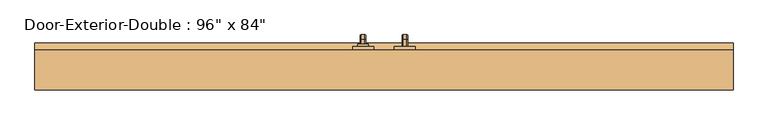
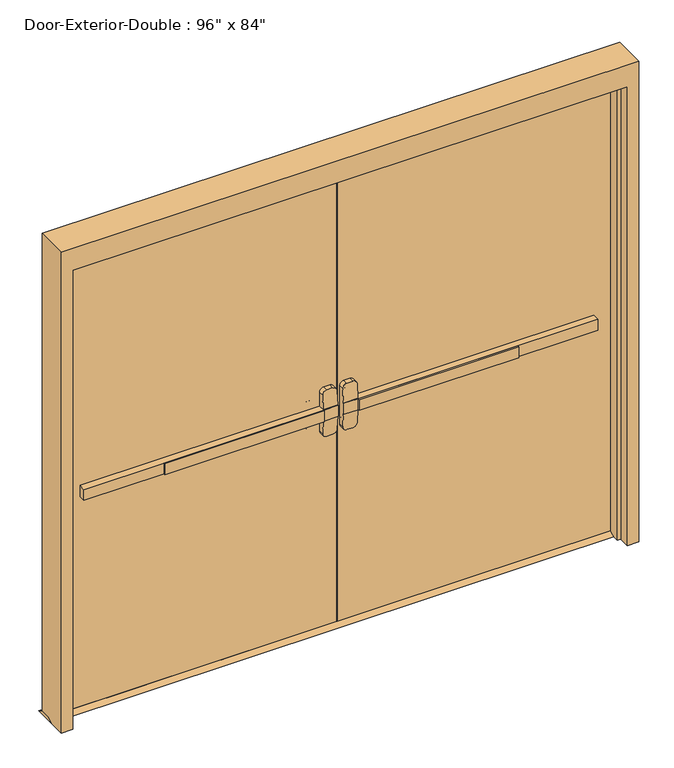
"""IFC4 building model written with IfcOpenShell, lengths in millimetres: door geometry."""

from ifc_helpers import new_model, si_unit, point, frame, frame_2d, origin, place, context, project, spatial, polyline, circle_curve, ellipse_curve, trimmed, segment, composite_curve, outline, extrude, faceted_brep, source, transform, mapped, element, save
from ifc_brep_helpers import plane_surface, cylinder_surface, revolved_surface, advanced_brep


def door_d5635643(model_context):
    return source(origin(), model_context, "Body", "SolidModel", [
        extrude(outline(polyline([(-778.9333333, 74.6125), (-778.9333333, 80.9625), (-76.2, 80.9625), (-76.2, 74.6125), (-778.9333333, 74.6125)])), frame((0.0, 0.0, 990.6), z_axis=(0.0, 0.0, 1.0), x_axis=(1.0, 0.0, 0.0)), (0.0, 0.0, 1.0), 50.8),
        advanced_brep(
        [(-12.7, 80.9625, 1041.4), (-76.2, 80.9625, 1041.4), (-1130.3, 80.9625, 1041.4), (-1130.3, 80.9625, 990.6), (-76.2, 80.9625, 990.6), (-12.7, 80.9625, 990.6), (-1130.3, 112.7125, 1041.4), (-76.2, 112.7125, 1041.4), (-76.2, 112.7125, 1104.9), (-57.15, 112.7125, 1123.95), (-31.75, 112.7125, 1123.95), (-12.7, 112.7125, 1104.9), (-12.7, 112.7125, 927.1), (-31.75, 112.7125, 908.05), (-57.15, 112.7125, 908.05), (-76.2, 112.7125, 927.1), (-76.2, 112.7125, 990.6), (-1130.3, 112.7125, 990.6), (-12.7, 84.1377467, 1041.4), (-76.2, 84.1377467, 1041.4), (-12.7, 84.1377467, 990.6), (-12.7, 89.1479269, 927.1), (-12.7, 89.1479269, 1104.9), (-76.2, 84.1377467, 990.6), (-76.2, 89.1479269, 1104.9), (-76.2, 89.1479269, 927.1), (-57.15, 90.650981, 1123.95), (-31.75, 90.650981, 1123.95), (-31.75, 90.650981, 908.05), (-57.15, 90.650981, 908.05)],
        [
            (0, 1),
            (1, 2),
            (2, 3),
            (3, 4),
            (4, 5),
            (5, 0),
            (6, 7),
            (7, 8),
            (8, 9, circle_curve(frame((-57.15, 112.7125, 1104.9), z_axis=(0.0, 1.0, 0.0), x_axis=(-1.0, 0.0, 0.0)), 19.05)),
            (9, 10),
            (10, 11, circle_curve(frame((-31.75, 112.7125, 1104.9), z_axis=(0.0, 1.0, 0.0), x_axis=(-1.0, 0.0, 0.0)), 19.05)),
            (11, 12),
            (12, 13, circle_curve(frame((-31.75, 112.7125, 927.1), z_axis=(0.0, 1.0, 0.0), x_axis=(-1.0, 0.0, 0.0)), 19.05)),
            (13, 14),
            (14, 15, circle_curve(frame((-57.15, 112.7125, 927.1), z_axis=(0.0, 1.0, 0.0), x_axis=(-1.0, 0.0, 0.0)), 19.05)),
            (15, 16),
            (16, 17),
            (17, 6),
            (0, 18),
            (18, 19),
            (19, 7),
            (6, 2),
            (5, 20),
            (20, 21),
            (21, 12),
            (11, 22),
            (22, 18),
            (16, 23),
            (23, 20),
            (3, 17),
            (19, 24),
            (24, 8),
            (15, 25),
            (25, 23),
            (9, 26),
            (26, 27),
            (27, 10),
            (13, 28),
            (28, 29),
            (29, 14),
            (29, 25, ellipse_curve(frame((-57.15, 89.1479269, 927.1), z_axis=(0.0, 0.9969018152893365, 0.07865602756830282), x_axis=(0.0, -0.07865602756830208, 0.9969018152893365)), 19.1092038, 19.05)),
            (24, 26, ellipse_curve(frame((-57.15, 89.1479269, 1104.9), z_axis=(0.0, 0.9969018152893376, -0.07865602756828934), x_axis=(0.0, -0.078656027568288, -0.9969018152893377)), 19.1092038, 19.05)),
            (27, 22, ellipse_curve(frame((-31.75, 89.1479269, 1104.9), z_axis=(0.0, 0.9969018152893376, -0.07865602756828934), x_axis=(0.0, -0.078656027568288, -0.9969018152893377)), 19.1092038, 19.05)),
            (21, 28, ellipse_curve(frame((-31.75, 89.1479269, 927.1), z_axis=(0.0, 0.9969018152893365, 0.07865602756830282), x_axis=(0.0, -0.07865602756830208, 0.9969018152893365)), 19.1092038, 19.05)),
        ],
        [
            plane_surface(frame((-12.7, 80.9625, 1041.4), z_axis=(0.0, -1.0, 0.0), x_axis=(1.0, 0.0, 0.0))),
            plane_surface(frame((-12.7, 112.7125, 1041.4), z_axis=(0.0, 1.0, 0.0), x_axis=(-1.0, 0.0, 0.0))),
            plane_surface(frame((-1130.3, 80.9625, 1041.4), z_axis=(0.0, 0.0, 1.0), x_axis=(0.0, 1.0, 0.0))),
            plane_surface(frame((-12.7, 80.9625, 1041.4), z_axis=(1.0, 0.0, 0.0), x_axis=(0.0, 1.0, 0.0))),
            plane_surface(frame((-12.7, 80.9625, 990.6), z_axis=(0.0, 0.0, -1.0), x_axis=(0.0, 1.0, 0.0))),
            plane_surface(frame((-1130.3, 80.9625, 990.6), z_axis=(-1.0, 0.0, 0.0), x_axis=(0.0, 1.0, 0.0))),
            plane_surface(frame((-76.2, 84.1377467, 927.1), z_axis=(-1.0, 0.0, 0.0), x_axis=(0.0, 1.0, 0.0))),
            plane_surface(frame((-57.15, 84.1377467, 1123.95), z_axis=(0.0, 0.0, 1.0), x_axis=(0.0, 1.0, 0.0))),
            plane_surface(frame((-31.75, 84.1377467, 908.05), z_axis=(0.0, 0.0, -1.0), x_axis=(0.0, 1.0, 0.0))),
            cylinder_surface(frame((-57.15, 112.7125, 927.1), z_axis=(0.0, -1.0, 0.0), x_axis=(-1.0, 0.0, 0.0)), 19.05),
            cylinder_surface(frame((-57.15, 112.7125, 1104.9), z_axis=(0.0, -1.0, 0.0), x_axis=(-1.0, 0.0, 0.0)), 19.05),
            cylinder_surface(frame((-31.75, 112.7125, 1104.9), z_axis=(0.0, -1.0, 0.0), x_axis=(-1.0, 0.0, 0.0)), 19.05),
            cylinder_surface(frame((-31.75, 112.7125, 927.1), z_axis=(0.0, -1.0, 0.0), x_axis=(-1.0, 0.0, 0.0)), 19.05),
            plane_surface(frame((-76.2, 84.1377467, 1041.4), z_axis=(0.0, -0.9969018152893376, 0.07865602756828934), x_axis=(1.0, 0.0, 0.0))),
            plane_surface(frame((-76.2, 90.650981, 908.05), z_axis=(0.0, -0.9969018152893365, -0.07865602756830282), x_axis=(1.0, 0.0, 0.0))),
        ],
        [
            (0, [[1, 2, 3, 4, 5, 6]]),
            (1, [[7, 8, 9, 10, 11, 12, 13, 14, 15, 16, 17, 18]]),
            (2, [[-2, -1, 19, 20, 21, -7, 22]]),
            (3, [[23, 24, 25, -12, 26, 27, -19, -6]]),
            (4, [[-17, 28, 29, -23, -5, -4, 30]]),
            (5, [[-22, -18, -30, -3]]),
            (6, [[-21, 31, 32, -8]]),
            (6, [[33, 34, -28, -16]]),
            (7, [[35, 36, 37, -10]]),
            (8, [[38, 39, 40, -14]]),
            (9, [[-40, 41, -33, -15]]),
            (10, [[-32, 42, -35, -9]]),
            (11, [[-37, 43, -26, -11]]),
            (12, [[-25, 44, -38, -13]]),
            (13, [[-27, -43, -36, -42, -31, -20]]),
            (14, [[-29, -34, -41, -39, -44, -24]]),
        ],
    ),
        extrude(outline(polyline([(157.1625, 12.7), (182.5625, 0.0), (87.3125, 0.0), (112.7125, 12.7), (157.1625, 12.7)])), frame((-1270.0, 0.0, 0.0), z_axis=(1.0, 0.0, 0.0), x_axis=(0.0, 1.0, 0.0)), (0.0, 0.0, 1.0), 2540.0),
        extrude(outline(polyline([(778.9333333, 74.6125), (76.2, 74.6125), (76.2, 80.9625), (778.9333333, 80.9625), (778.9333333, 74.6125)])), frame((0.0, 0.0, 990.6), z_axis=(0.0, 0.0, 1.0), x_axis=(1.0, 0.0, 0.0)), (0.0, 0.0, 1.0), 50.8),
        advanced_brep(
        [(12.7, 80.9625, 1041.4), (12.7, 80.9625, 990.6), (76.2, 80.9625, 990.6), (1130.3, 80.9625, 990.6), (1130.3, 80.9625, 1041.4), (76.2, 80.9625, 1041.4), (1130.3, 112.7125, 1041.4), (1130.3, 112.7125, 990.6), (76.2, 112.7125, 990.6), (76.2, 112.7125, 927.1), (57.15, 112.7125, 908.05), (31.75, 112.7125, 908.05), (12.7, 112.7125, 927.1), (12.7, 112.7125, 1104.9), (31.75, 112.7125, 1123.95), (57.15, 112.7125, 1123.95), (76.2, 112.7125, 1104.9), (76.2, 112.7125, 1041.4), (76.2, 84.1377467, 1041.4), (12.7, 84.1377467, 1041.4), (12.7, 89.1479269, 1104.9), (12.7, 89.1479269, 927.1), (12.7, 84.1377467, 990.6), (76.2, 84.1377467, 990.6), (76.2, 89.1479269, 927.1), (76.2, 89.1479269, 1104.9), (31.75, 90.650981, 1123.95), (57.15, 90.650981, 1123.95), (57.15, 90.650981, 908.05), (31.75, 90.650981, 908.05)],
        [
            (0, 1),
            (1, 2),
            (2, 3),
            (3, 4),
            (4, 5),
            (5, 0),
            (6, 7),
            (7, 8),
            (8, 9),
            (9, 10, circle_curve(frame((57.15, 112.7125, 927.1), z_axis=(0.0, 1.0, 0.0), x_axis=(1.0, 0.0, 0.0)), 19.05)),
            (10, 11),
            (11, 12, circle_curve(frame((31.75, 112.7125, 927.1), z_axis=(0.0, 1.0, 0.0), x_axis=(1.0, 0.0, 0.0)), 19.05)),
            (12, 13),
            (13, 14, circle_curve(frame((31.75, 112.7125, 1104.9), z_axis=(0.0, 1.0, 0.0), x_axis=(1.0, 0.0, 0.0)), 19.05)),
            (14, 15),
            (15, 16, circle_curve(frame((57.15, 112.7125, 1104.9), z_axis=(0.0, 1.0, 0.0), x_axis=(1.0, 0.0, 0.0)), 19.05)),
            (16, 17),
            (17, 6),
            (4, 6),
            (17, 18),
            (18, 19),
            (19, 0),
            (19, 20),
            (20, 13),
            (12, 21),
            (21, 22),
            (22, 1),
            (7, 3),
            (22, 23),
            (23, 8),
            (23, 24),
            (24, 9),
            (16, 25),
            (25, 18),
            (14, 26),
            (26, 27),
            (27, 15),
            (10, 28),
            (28, 29),
            (29, 11),
            (24, 28, ellipse_curve(frame((57.15, 89.1479269, 927.1), z_axis=(0.0, 0.9969018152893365, 0.07865602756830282), x_axis=(0.0, -0.07865602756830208, 0.9969018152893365)), 19.1092038, 19.05)),
            (27, 25, ellipse_curve(frame((57.15, 89.1479269, 1104.9), z_axis=(0.0, 0.9969018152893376, -0.07865602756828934), x_axis=(0.0, -0.078656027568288, -0.9969018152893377)), 19.1092038, 19.05)),
            (20, 26, ellipse_curve(frame((31.75, 89.1479269, 1104.9), z_axis=(0.0, 0.9969018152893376, -0.07865602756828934), x_axis=(0.0, -0.078656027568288, -0.9969018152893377)), 19.1092038, 19.05)),
            (29, 21, ellipse_curve(frame((31.75, 89.1479269, 927.1), z_axis=(0.0, 0.9969018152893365, 0.07865602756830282), x_axis=(0.0, -0.07865602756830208, 0.9969018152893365)), 19.1092038, 19.05)),
        ],
        [
            plane_surface(frame((12.7, 80.9625, 1041.4), z_axis=(0.0, -1.0, 0.0), x_axis=(-1.0, 0.0, 0.0))),
            plane_surface(frame((12.7, 112.7125, 1041.4), z_axis=(0.0, 1.0, 0.0), x_axis=(1.0, 0.0, 0.0))),
            plane_surface(frame((1130.3, 80.9625, 1041.4), z_axis=(0.0, 0.0, 1.0), x_axis=(0.0, 1.0, 0.0))),
            plane_surface(frame((12.7, 80.9625, 1041.4), z_axis=(-1.0, 0.0, 0.0), x_axis=(0.0, 1.0, 0.0))),
            plane_surface(frame((12.7, 80.9625, 990.6), z_axis=(0.0, 0.0, -1.0), x_axis=(0.0, 1.0, 0.0))),
            plane_surface(frame((1130.3, 80.9625, 990.6), z_axis=(1.0, 0.0, 0.0), x_axis=(0.0, 1.0, 0.0))),
            plane_surface(frame((76.2, 84.1377467, 927.1), z_axis=(1.0, 0.0, 0.0), x_axis=(0.0, 1.0, 0.0))),
            plane_surface(frame((57.15, 84.1377467, 1123.95), z_axis=(0.0, 0.0, 1.0), x_axis=(0.0, 1.0, 0.0))),
            plane_surface(frame((31.75, 84.1377467, 908.05), z_axis=(0.0, 0.0, -1.0), x_axis=(0.0, 1.0, 0.0))),
            cylinder_surface(frame((57.15, 112.7125, 927.1), z_axis=(0.0, -1.0, 0.0), x_axis=(1.0, 0.0, 0.0)), 19.05),
            cylinder_surface(frame((57.15, 112.7125, 1104.9), z_axis=(0.0, -1.0, 0.0), x_axis=(1.0, 0.0, 0.0)), 19.05),
            cylinder_surface(frame((31.75, 112.7125, 1104.9), z_axis=(0.0, -1.0, 0.0), x_axis=(1.0, 0.0, 0.0)), 19.05),
            cylinder_surface(frame((31.75, 112.7125, 927.1), z_axis=(0.0, -1.0, 0.0), x_axis=(1.0, 0.0, 0.0)), 19.05),
            plane_surface(frame((76.2, 84.1377467, 1041.4), z_axis=(0.0, -0.9969018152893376, 0.07865602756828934), x_axis=(-1.0, 0.0, 0.0))),
            plane_surface(frame((76.2, 90.650981, 908.05), z_axis=(0.0, -0.9969018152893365, -0.07865602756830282), x_axis=(-1.0, 0.0, 0.0))),
        ],
        [
            (0, [[1, 2, 3, 4, 5, 6]]),
            (1, [[7, 8, 9, 10, 11, 12, 13, 14, 15, 16, 17, 18]]),
            (2, [[19, -18, 20, 21, 22, -6, -5]]),
            (3, [[-1, -22, 23, 24, -13, 25, 26, 27]]),
            (4, [[28, -3, -2, -27, 29, 30, -8]]),
            (5, [[-4, -28, -7, -19]]),
            (6, [[-9, -30, 31, 32]]),
            (6, [[-17, 33, 34, -20]]),
            (7, [[-15, 35, 36, 37]]),
            (8, [[-11, 38, 39, 40]]),
            (9, [[-10, -32, 41, -38]]),
            (10, [[-16, -37, 42, -33]]),
            (11, [[-14, -24, 43, -35]]),
            (12, [[-12, -40, 44, -25]]),
            (13, [[-21, -34, -42, -36, -43, -23]]),
            (14, [[-26, -44, -39, -41, -31, -29]]),
        ],
    ),
        advanced_brep(
        [(66.2, 169.8625, 1017.190625), (66.2, 169.8625, 1014.809375), (69.771875, 169.8625, 1011.2375), (82.6284594, 169.8625, 1011.2375), (86.2, 169.8625, 1014.8090406), (86.2, 169.8625, 1017.190625), (82.628125, 169.8625, 1020.7625), (69.771875, 169.8625, 1020.7625), (66.2, 169.8625, 887.809375), (69.771875, 169.8625, 884.2375), (82.628125, 169.8625, 884.2375), (86.2, 169.8625, 887.809375), (86.2, 169.8625, 890.1909594), (82.6284594, 169.8625, 893.7625), (69.771875, 169.8625, 893.7625), (66.2, 169.8625, 890.190625), (66.2, 195.2625, 1017.190625), (66.2, 209.153125, 1003.3), (66.2, 209.153125, 901.7), (66.2, 195.2625, 887.809375), (66.2, 195.2625, 890.190625), (66.2, 206.771875, 901.7), (66.2, 206.771875, 1003.3), (66.2, 195.2625, 1014.809375), (69.771875, 195.2625, 1011.2375), (82.6284594, 195.2625, 1011.2375), (86.2, 195.2625, 1014.8090406), (86.2, 206.7715406, 1003.3), (86.2, 206.7715406, 901.7), (86.2, 195.2625, 890.1909594), (86.2, 195.2625, 887.809375), (86.2, 209.153125, 901.7), (86.2, 209.153125, 1003.3), (86.2, 195.2625, 1017.190625), (82.628125, 195.2625, 1020.7625), (69.771875, 195.2625, 1020.7625), (69.771875, 203.2, 1003.3), (82.6284594, 203.2, 1003.3), (82.628125, 212.725, 1003.3), (69.771875, 212.725, 1003.3), (69.771875, 203.2, 901.7), (82.6284594, 203.2, 901.7), (82.628125, 212.725, 901.7), (69.771875, 212.725, 901.7), (69.771875, 195.2625, 893.7625), (82.6284594, 195.2625, 893.7625), (82.628125, 195.2625, 884.2375), (69.771875, 195.2625, 884.2375)],
        [
            (0, 1),
            (1, 2, circle_curve(frame((69.771875, 169.8625, 1014.809375), z_axis=(0.0, -1.0, 0.0), x_axis=(0.0, 0.0, 1.0)), 3.571875)),
            (2, 3),
            (3, 4, circle_curve(frame((82.6284594, 169.8625, 1014.8090406), z_axis=(0.0, -1.0, 0.0), x_axis=(0.0, 0.0, 1.0)), 3.5715406)),
            (4, 5),
            (5, 6, circle_curve(frame((82.628125, 169.8625, 1017.190625), z_axis=(0.0, -1.0, 0.0), x_axis=(0.0, 0.0, 1.0)), 3.571875)),
            (6, 7),
            (7, 0, circle_curve(frame((69.771875, 169.8625, 1017.190625), z_axis=(0.0, -1.0, 0.0), x_axis=(0.0, 0.0, 1.0)), 3.571875)),
            (8, 9, circle_curve(frame((69.771875, 169.8625, 887.809375), z_axis=(0.0, -1.0, 0.0), x_axis=(0.0, 0.0, -1.0)), 3.571875)),
            (9, 10),
            (10, 11, circle_curve(frame((82.628125, 169.8625, 887.809375), z_axis=(0.0, -1.0, 0.0), x_axis=(0.0, 0.0, -1.0)), 3.571875)),
            (11, 12),
            (12, 13, circle_curve(frame((82.6284594, 169.8625, 890.1909594), z_axis=(0.0, -1.0, 0.0), x_axis=(0.0, 0.0, -1.0)), 3.5715406)),
            (13, 14),
            (14, 15, circle_curve(frame((69.771875, 169.8625, 890.190625), z_axis=(0.0, -1.0, 0.0), x_axis=(0.0, 0.0, -1.0)), 3.571875)),
            (15, 8),
            (0, 16),
            (16, 17, circle_curve(frame((66.2, 195.2625, 1003.3), z_axis=(-1.0, 0.0, 0.0), x_axis=(0.0, 0.0, 1.0)), 13.890625)),
            (17, 18),
            (18, 19, circle_curve(frame((66.2, 195.2625, 901.7), z_axis=(-1.0, 0.0, 0.0), x_axis=(0.0, 1.0, 0.0)), 13.890625)),
            (19, 8),
            (15, 20),
            (20, 21, circle_curve(frame((66.2, 195.2625, 901.7), z_axis=(1.0, 0.0, 0.0), x_axis=(0.0, 1.0, 0.0)), 11.509375)),
            (21, 22),
            (22, 23, circle_curve(frame((66.2, 195.2625, 1003.3), z_axis=(1.0, 0.0, 0.0), x_axis=(0.0, 0.0, 1.0)), 11.509375)),
            (23, 1),
            (23, 24, circle_curve(frame((69.771875, 195.2625, 1014.809375), z_axis=(0.0, -1.0, 0.0), x_axis=(0.0, 0.0, 1.0)), 3.571875)),
            (24, 2),
            (24, 25),
            (25, 3),
            (25, 26, circle_curve(frame((82.6284594, 195.2625, 1014.8090406), z_axis=(0.0, -1.0, 0.0), x_axis=(0.0, 0.0, 1.0)), 3.5715406)),
            (26, 4),
            (26, 27, circle_curve(frame((86.2, 195.2625, 1003.3), z_axis=(-1.0, 0.0, 0.0), x_axis=(0.0, 0.0, 1.0)), 11.5090406)),
            (27, 28),
            (28, 29, circle_curve(frame((86.2, 195.2625, 901.7), z_axis=(-1.0, 0.0, 0.0), x_axis=(0.0, 1.0, 0.0)), 11.5090406)),
            (29, 12),
            (11, 30),
            (30, 31, circle_curve(frame((86.2, 195.2625, 901.7), z_axis=(1.0, 0.0, 0.0), x_axis=(0.0, 1.0, 0.0)), 13.890625)),
            (31, 32),
            (32, 33, circle_curve(frame((86.2, 195.2625, 1003.3), z_axis=(1.0, 0.0, 0.0), x_axis=(0.0, 0.0, 1.0)), 13.890625)),
            (33, 5),
            (33, 34, circle_curve(frame((82.628125, 195.2625, 1017.190625), z_axis=(0.0, -1.0, 0.0), x_axis=(0.0, 0.0, 1.0)), 3.571875)),
            (34, 6),
            (34, 35),
            (35, 7),
            (35, 16, circle_curve(frame((69.771875, 195.2625, 1017.190625), z_axis=(0.0, -1.0, 0.0), x_axis=(0.0, 0.0, 1.0)), 3.571875)),
            (36, 24, circle_curve(frame((69.771875, 195.2625, 1003.3), z_axis=(1.0, 0.0, 0.0), x_axis=(0.0, 0.0, 1.0)), 7.9375)),
            (22, 36, circle_curve(frame((69.771875, 206.771875, 1003.3), z_axis=(0.0, 0.0, 1.0), x_axis=(0.0, 1.0, 0.0)), 3.571875)),
            (37, 25, circle_curve(frame((82.6284594, 195.2625, 1003.3), z_axis=(1.0, 0.0, 0.0), x_axis=(0.0, 0.0, 1.0)), 7.9375)),
            (36, 37),
            (37, 27, circle_curve(frame((82.6284594, 206.7715406, 1003.3), z_axis=(0.0, 0.0, 1.0), x_axis=(0.0, 1.0, 0.0)), 3.5715406)),
            (38, 34, circle_curve(frame((82.628125, 195.2625, 1003.3), z_axis=(1.0, 0.0, 0.0), x_axis=(0.0, 0.0, 1.0)), 17.4625)),
            (32, 38, circle_curve(frame((82.628125, 209.153125, 1003.3), z_axis=(0.0, 0.0, 1.0), x_axis=(0.0, 1.0, 0.0)), 3.571875)),
            (39, 35, circle_curve(frame((69.771875, 195.2625, 1003.3), z_axis=(1.0, 0.0, 0.0), x_axis=(0.0, 0.0, 1.0)), 17.4625)),
            (38, 39),
            (39, 17, circle_curve(frame((69.771875, 209.153125, 1003.3), z_axis=(0.0, 0.0, 1.0), x_axis=(0.0, 1.0, 0.0)), 3.571875)),
            (21, 40, circle_curve(frame((69.771875, 206.771875, 901.7), z_axis=(0.0, 0.0, 1.0), x_axis=(0.0, 1.0, 0.0)), 3.571875)),
            (40, 36),
            (40, 41),
            (41, 37),
            (41, 28, circle_curve(frame((82.6284594, 206.7715406, 901.7), z_axis=(0.0, 0.0, 1.0), x_axis=(0.0, 1.0, 0.0)), 3.5715406)),
            (31, 42, circle_curve(frame((82.628125, 209.153125, 901.7), z_axis=(0.0, 0.0, 1.0), x_axis=(0.0, 1.0, 0.0)), 3.571875)),
            (42, 38),
            (42, 43),
            (43, 39),
            (43, 18, circle_curve(frame((69.771875, 209.153125, 901.7), z_axis=(0.0, 0.0, 1.0), x_axis=(0.0, 1.0, 0.0)), 3.571875)),
            (44, 40, circle_curve(frame((69.771875, 195.2625, 901.7), z_axis=(1.0, 0.0, 0.0), x_axis=(0.0, 1.0, 0.0)), 7.9375)),
            (20, 44, circle_curve(frame((69.771875, 195.2625, 890.190625), z_axis=(0.0, 1.0, 0.0), x_axis=(0.0, 0.0, -1.0)), 3.571875)),
            (45, 41, circle_curve(frame((82.6284594, 195.2625, 901.7), z_axis=(1.0, 0.0, 0.0), x_axis=(0.0, 1.0, 0.0)), 7.9375)),
            (44, 45),
            (45, 29, circle_curve(frame((82.6284594, 195.2625, 890.1909594), z_axis=(0.0, 1.0, 0.0), x_axis=(0.0, 0.0, -1.0)), 3.5715406)),
            (46, 42, circle_curve(frame((82.628125, 195.2625, 901.7), z_axis=(1.0, 0.0, 0.0), x_axis=(0.0, 1.0, 0.0)), 17.4625)),
            (30, 46, circle_curve(frame((82.628125, 195.2625, 887.809375), z_axis=(0.0, 1.0, 0.0), x_axis=(0.0, 0.0, -1.0)), 3.571875)),
            (47, 43, circle_curve(frame((69.771875, 195.2625, 901.7), z_axis=(1.0, 0.0, 0.0), x_axis=(0.0, 1.0, 0.0)), 17.4625)),
            (46, 47),
            (47, 19, circle_curve(frame((69.771875, 195.2625, 887.809375), z_axis=(0.0, 1.0, 0.0), x_axis=(0.0, 0.0, -1.0)), 3.571875)),
            (14, 44),
            (13, 45),
            (10, 46),
            (9, 47),
        ],
        [
            plane_surface(frame((76.2, 169.8625, 1016.0), z_axis=(0.0, -1.0, 0.0), x_axis=(1.0, 0.0, 0.0))),
            plane_surface(frame((76.2, 169.8625, 889.0), z_axis=(0.0, -1.0, 0.0), x_axis=(1.0, 0.0, 0.0))),
            plane_surface(frame((66.2, 169.8625, 1017.190625), z_axis=(-1.0, 0.0, 0.0), x_axis=(0.0, 1.0, 0.0))),
            cylinder_surface(frame((69.771875, 169.8625, 1014.809375), z_axis=(0.0, -1.0, 0.0), x_axis=(0.0, 0.0, 1.0)), 3.571875),
            plane_surface(frame((69.771875, 169.8625, 1011.2375), z_axis=(0.0, 0.0, -1.0), x_axis=(0.0, 1.0, 0.0))),
            cylinder_surface(frame((82.6284594, 169.8625, 1014.8090406), z_axis=(0.0, -1.0, 0.0), x_axis=(0.0, 0.0, 1.0)), 3.5715406),
            plane_surface(frame((86.2, 169.8625, 1014.8090406), z_axis=(1.0, 0.0, 0.0), x_axis=(0.0, 1.0, 0.0))),
            cylinder_surface(frame((82.628125, 169.8625, 1017.190625), z_axis=(0.0, -1.0, 0.0), x_axis=(0.0, 0.0, 1.0)), 3.571875),
            plane_surface(frame((82.628125, 169.8625, 1020.7625), z_axis=(0.0, 0.0, 1.0), x_axis=(0.0, 1.0, 0.0))),
            cylinder_surface(frame((69.771875, 169.8625, 1017.190625), z_axis=(0.0, -1.0, 0.0), x_axis=(0.0, 0.0, 1.0)), 3.571875),
            revolved_surface(trimmed(ellipse_curve(frame((69.771875, 195.2625, 1014.809375), z_axis=(0.0, -1.0, 0.0), x_axis=(0.0, 0.0, 1.0)), 3.571875, 3.571875), [point((66.2, 195.2625, 1014.809375))], [point((69.771875, 195.2625, 1011.2375))], True, "CARTESIAN"), (76.2, 195.2625, 1003.3), (-1.0, 0.0, 0.0)),
            revolved_surface(polyline([(69.771875, 195.2625, 1011.2375), (82.6284594, 195.2625, 1011.2375)]), (76.2, 195.2625, 1003.3), (-1.0, 0.0, 0.0)),
            revolved_surface(trimmed(ellipse_curve(frame((82.6284594, 195.2625, 1014.8090406), z_axis=(0.0, -1.0, 0.0), x_axis=(0.0, 0.0, 1.0)), 3.5715406, 3.5715406), [point((82.6284594, 195.2625, 1011.2375))], [point((86.2, 195.2625, 1014.8090406))], True, "CARTESIAN"), (76.2, 195.2625, 1003.3), (-1.0, 0.0, 0.0)),
            revolved_surface(trimmed(ellipse_curve(frame((82.628125, 195.2625, 1017.190625), z_axis=(0.0, -1.0, 0.0), x_axis=(0.0, 0.0, 1.0)), 3.571875, 3.571875), [point((86.2, 195.2625, 1017.190625))], [point((82.628125, 195.2625, 1020.7625))], True, "CARTESIAN"), (76.2, 195.2625, 1003.3), (-1.0, 0.0, 0.0)),
            cylinder_surface(frame((76.2, 195.2625, 1003.3), z_axis=(-1.0, 0.0, 0.0), x_axis=(0.0, 0.0, 1.0)), 17.4625),
            revolved_surface(trimmed(ellipse_curve(frame((69.771875, 195.2625, 1017.190625), z_axis=(0.0, -1.0, 0.0), x_axis=(0.0, 0.0, 1.0)), 3.571875, 3.571875), [point((69.771875, 195.2625, 1020.7625))], [point((66.2, 195.2625, 1017.190625))], True, "CARTESIAN"), (76.2, 195.2625, 1003.3), (-1.0, 0.0, 0.0)),
            cylinder_surface(frame((69.771875, 206.771875, 1003.3), z_axis=(0.0, 0.0, 1.0), x_axis=(0.0, 1.0, 0.0)), 3.571875),
            plane_surface(frame((69.771875, 203.2, 1003.3), z_axis=(0.0, -1.0, 0.0), x_axis=(0.0, 0.0, -1.0))),
            cylinder_surface(frame((82.6284594, 206.7715406, 1003.3), z_axis=(0.0, 0.0, 1.0), x_axis=(0.0, 1.0, 0.0)), 3.5715406),
            cylinder_surface(frame((82.628125, 209.153125, 1003.3), z_axis=(0.0, 0.0, 1.0), x_axis=(0.0, 1.0, 0.0)), 3.571875),
            plane_surface(frame((82.628125, 212.725, 1003.3), z_axis=(0.0, 1.0, 0.0), x_axis=(0.0, 0.0, -1.0))),
            cylinder_surface(frame((69.771875, 209.153125, 1003.3), z_axis=(0.0, 0.0, 1.0), x_axis=(0.0, 1.0, 0.0)), 3.571875),
            revolved_surface(trimmed(ellipse_curve(frame((69.771875, 206.771875, 901.7), z_axis=(0.0, 0.0, 1.0), x_axis=(0.0, 1.0, 0.0)), 3.571875, 3.571875), [point((66.2, 206.771875, 901.7))], [point((69.771875, 203.2, 901.7))], True, "CARTESIAN"), (76.2, 195.2625, 901.7), (-1.0, 0.0, 0.0)),
            revolved_surface(polyline([(69.771875, 203.2, 901.7), (82.6284594, 203.2, 901.7)]), (76.2, 195.2625, 901.7), (-1.0, 0.0, 0.0)),
            revolved_surface(trimmed(ellipse_curve(frame((82.6284594, 206.7715406, 901.7), z_axis=(0.0, 0.0, 1.0), x_axis=(0.0, 1.0, 0.0)), 3.5715406, 3.5715406), [point((82.6284594, 203.2, 901.7))], [point((86.2, 206.7715406, 901.7))], True, "CARTESIAN"), (76.2, 195.2625, 901.7), (-1.0, 0.0, 0.0)),
            revolved_surface(trimmed(ellipse_curve(frame((82.628125, 209.153125, 901.7), z_axis=(0.0, 0.0, 1.0), x_axis=(0.0, 1.0, 0.0)), 3.571875, 3.571875), [point((86.2, 209.153125, 901.7))], [point((82.628125, 212.725, 901.7))], True, "CARTESIAN"), (76.2, 195.2625, 901.7), (-1.0, 0.0, 0.0)),
            cylinder_surface(frame((76.2, 195.2625, 901.7), z_axis=(-1.0, 0.0, 0.0), x_axis=(0.0, 1.0, 0.0)), 17.4625),
            revolved_surface(trimmed(ellipse_curve(frame((69.771875, 209.153125, 901.7), z_axis=(0.0, 0.0, 1.0), x_axis=(0.0, 1.0, 0.0)), 3.571875, 3.571875), [point((69.771875, 212.725, 901.7))], [point((66.2, 209.153125, 901.7))], True, "CARTESIAN"), (76.2, 195.2625, 901.7), (-1.0, 0.0, 0.0)),
            cylinder_surface(frame((69.771875, 195.2625, 890.190625), z_axis=(0.0, 1.0, 0.0), x_axis=(0.0, 0.0, -1.0)), 3.571875),
            plane_surface(frame((69.771875, 195.2625, 893.7625), z_axis=(0.0, 0.0, 1.0), x_axis=(0.0, -1.0, 0.0))),
            cylinder_surface(frame((82.6284594, 195.2625, 890.1909594), z_axis=(0.0, 1.0, 0.0), x_axis=(0.0, 0.0, -1.0)), 3.5715406),
            cylinder_surface(frame((82.628125, 195.2625, 887.809375), z_axis=(0.0, 1.0, 0.0), x_axis=(0.0, 0.0, -1.0)), 3.571875),
            plane_surface(frame((82.628125, 195.2625, 884.2375), z_axis=(0.0, 0.0, -1.0), x_axis=(0.0, -1.0, 0.0))),
            cylinder_surface(frame((69.771875, 195.2625, 887.809375), z_axis=(0.0, 1.0, 0.0), x_axis=(0.0, 0.0, -1.0)), 3.571875),
        ],
        [
            (0, [[1, 2, 3, 4, 5, 6, 7, 8]]),
            (1, [[9, 10, 11, 12, 13, 14, 15, 16]]),
            (2, [[-1, 17, 18, 19, 20, 21, -16, 22, 23, 24, 25, 26]]),
            (3, [[-2, -26, 27, 28]]),
            (4, [[-3, -28, 29, 30]]),
            (5, [[-4, -30, 31, 32]]),
            (6, [[-5, -32, 33, 34, 35, 36, -12, 37, 38, 39, 40, 41]]),
            (7, [[-6, -41, 42, 43]]),
            (8, [[-7, -43, 44, 45]]),
            (9, [[-8, -45, 46, -17]]),
            (10, [[47, -27, -25, 48]]),
            (11, [[49, -29, -47, 50]]),
            (12, [[-33, -31, -49, 51]]),
            (13, [[52, -42, -40, 53]]),
            (14, [[54, -44, -52, 55]]),
            (15, [[-18, -46, -54, 56]]),
            (16, [[-48, -24, 57, 58]]),
            (17, [[-50, -58, 59, 60]]),
            (18, [[-51, -60, 61, -34]]),
            (19, [[-53, -39, 62, 63]]),
            (20, [[-55, -63, 64, 65]]),
            (21, [[-56, -65, 66, -19]]),
            (22, [[67, -57, -23, 68]]),
            (23, [[69, -59, -67, 70]]),
            (24, [[-35, -61, -69, 71]]),
            (25, [[72, -62, -38, 73]]),
            (26, [[74, -64, -72, 75]]),
            (27, [[-20, -66, -74, 76]]),
            (28, [[-68, -22, -15, 77]]),
            (29, [[-70, -77, -14, 78]]),
            (30, [[-71, -78, -13, -36]]),
            (31, [[-73, -37, -11, 79]]),
            (32, [[-75, -79, -10, 80]]),
            (33, [[-76, -80, -9, -21]]),
        ],
    ),
        extrude(outline(composite_curve([segment(trimmed(circle_curve(frame_2d((1113.0338574, 76.2)), 89.3016225), [point((1193.8, 114.3))], [point((1193.8, 38.1))], False, "CARTESIAN"), True, "CONTINUOUS"), segment(polyline([(1193.8, 38.1), (838.2, 38.1)]), True, "CONTINUOUS"), segment(trimmed(circle_curve(frame_2d((918.9661426, 76.2)), 89.3016225), [point((838.2, 38.1))], [point((838.2, 114.3))], False, "CARTESIAN"), True, "CONTINUOUS"), segment(polyline([(838.2, 114.3), (1193.8, 114.3)]), True, "CONTINUOUS")], self_intersect=False)), frame((0.0, 157.1625, 0.0), z_axis=(0.0, 1.0, 0.0), x_axis=(0.0, 0.0, 1.0)), (0.0, 0.0, 1.0), 12.7),
        advanced_brep(
        [(-86.2, 169.8625, 1017.190625), (-86.2, 169.8625, 1014.809375), (-82.628125, 169.8625, 1011.2375), (-69.7715406, 169.8625, 1011.2375), (-66.2, 169.8625, 1014.8090406), (-66.2, 169.8625, 1017.190625), (-69.771875, 169.8625, 1020.7625), (-82.628125, 169.8625, 1020.7625), (-86.2, 169.8625, 887.809375), (-82.628125, 169.8625, 884.2375), (-69.771875, 169.8625, 884.2375), (-66.2, 169.8625, 887.809375), (-66.2, 169.8625, 890.1909594), (-69.7715406, 169.8625, 893.7625), (-82.628125, 169.8625, 893.7625), (-86.2, 169.8625, 890.190625), (-86.2, 195.2625, 1017.190625), (-86.2, 209.153125, 1003.3), (-86.2, 209.153125, 901.7), (-86.2, 195.2625, 887.809375), (-86.2, 195.2625, 890.190625), (-86.2, 206.771875, 901.7), (-86.2, 206.771875, 1003.3), (-86.2, 195.2625, 1014.809375), (-82.628125, 195.2625, 1011.2375), (-69.7715406, 195.2625, 1011.2375), (-66.2, 195.2625, 1014.8090406), (-66.2, 206.7715406, 1003.3), (-66.2, 206.7715406, 901.7), (-66.2, 195.2625, 890.1909594), (-66.2, 195.2625, 887.809375), (-66.2, 209.153125, 901.7), (-66.2, 209.153125, 1003.3), (-66.2, 195.2625, 1017.190625), (-69.771875, 195.2625, 1020.7625), (-82.628125, 195.2625, 1020.7625), (-82.628125, 203.2, 1003.3), (-69.7715406, 203.2, 1003.3), (-69.771875, 212.725, 1003.3), (-82.628125, 212.725, 1003.3), (-82.628125, 203.2, 901.7), (-69.7715406, 203.2, 901.7), (-69.771875, 212.725, 901.7), (-82.628125, 212.725, 901.7), (-82.628125, 195.2625, 893.7625), (-69.7715406, 195.2625, 893.7625), (-69.771875, 195.2625, 884.2375), (-82.628125, 195.2625, 884.2375)],
        [
            (0, 1),
            (1, 2, circle_curve(frame((-82.628125, 169.8625, 1014.809375), z_axis=(0.0, -1.0, 0.0), x_axis=(0.0, 0.0, 1.0)), 3.571875)),
            (2, 3),
            (3, 4, circle_curve(frame((-69.7715406, 169.8625, 1014.8090406), z_axis=(0.0, -1.0, 0.0), x_axis=(0.0, 0.0, 1.0)), 3.5715406)),
            (4, 5),
            (5, 6, circle_curve(frame((-69.771875, 169.8625, 1017.190625), z_axis=(0.0, -1.0, 0.0), x_axis=(0.0, 0.0, 1.0)), 3.571875)),
            (6, 7),
            (7, 0, circle_curve(frame((-82.628125, 169.8625, 1017.190625), z_axis=(0.0, -1.0, 0.0), x_axis=(0.0, 0.0, 1.0)), 3.571875)),
            (8, 9, circle_curve(frame((-82.628125, 169.8625, 887.809375), z_axis=(0.0, -1.0, 0.0), x_axis=(0.0, 0.0, -1.0)), 3.571875)),
            (9, 10),
            (10, 11, circle_curve(frame((-69.771875, 169.8625, 887.809375), z_axis=(0.0, -1.0, 0.0), x_axis=(0.0, 0.0, -1.0)), 3.571875)),
            (11, 12),
            (12, 13, circle_curve(frame((-69.7715406, 169.8625, 890.1909594), z_axis=(0.0, -1.0, 0.0), x_axis=(0.0, 0.0, -1.0)), 3.5715406)),
            (13, 14),
            (14, 15, circle_curve(frame((-82.628125, 169.8625, 890.190625), z_axis=(0.0, -1.0, 0.0), x_axis=(0.0, 0.0, -1.0)), 3.571875)),
            (15, 8),
            (0, 16),
            (16, 17, circle_curve(frame((-86.2, 195.2625, 1003.3), z_axis=(-1.0, 0.0, 0.0), x_axis=(0.0, 0.0, 1.0)), 13.890625)),
            (17, 18),
            (18, 19, circle_curve(frame((-86.2, 195.2625, 901.7), z_axis=(-1.0, 0.0, 0.0), x_axis=(0.0, 1.0, 0.0)), 13.890625)),
            (19, 8),
            (15, 20),
            (20, 21, circle_curve(frame((-86.2, 195.2625, 901.7), z_axis=(1.0, 0.0, 0.0), x_axis=(0.0, 1.0, 0.0)), 11.509375)),
            (21, 22),
            (22, 23, circle_curve(frame((-86.2, 195.2625, 1003.3), z_axis=(1.0, 0.0, 0.0), x_axis=(0.0, 0.0, 1.0)), 11.509375)),
            (23, 1),
            (23, 24, circle_curve(frame((-82.628125, 195.2625, 1014.809375), z_axis=(0.0, -1.0, 0.0), x_axis=(0.0, 0.0, 1.0)), 3.571875)),
            (24, 2),
            (24, 25),
            (25, 3),
            (25, 26, circle_curve(frame((-69.7715406, 195.2625, 1014.8090406), z_axis=(0.0, -1.0, 0.0), x_axis=(0.0, 0.0, 1.0)), 3.5715406)),
            (26, 4),
            (26, 27, circle_curve(frame((-66.2, 195.2625, 1003.3), z_axis=(-1.0, 0.0, 0.0), x_axis=(0.0, 0.0, 1.0)), 11.5090406)),
            (27, 28),
            (28, 29, circle_curve(frame((-66.2, 195.2625, 901.7), z_axis=(-1.0, 0.0, 0.0), x_axis=(0.0, 1.0, 0.0)), 11.5090406)),
            (29, 12),
            (11, 30),
            (30, 31, circle_curve(frame((-66.2, 195.2625, 901.7), z_axis=(1.0, 0.0, 0.0), x_axis=(0.0, 1.0, 0.0)), 13.890625)),
            (31, 32),
            (32, 33, circle_curve(frame((-66.2, 195.2625, 1003.3), z_axis=(1.0, 0.0, 0.0), x_axis=(0.0, 0.0, 1.0)), 13.890625)),
            (33, 5),
            (33, 34, circle_curve(frame((-69.771875, 195.2625, 1017.190625), z_axis=(0.0, -1.0, 0.0), x_axis=(0.0, 0.0, 1.0)), 3.571875)),
            (34, 6),
            (34, 35),
            (35, 7),
            (35, 16, circle_curve(frame((-82.628125, 195.2625, 1017.190625), z_axis=(0.0, -1.0, 0.0), x_axis=(0.0, 0.0, 1.0)), 3.571875)),
            (36, 24, circle_curve(frame((-82.628125, 195.2625, 1003.3), z_axis=(1.0, 0.0, 0.0), x_axis=(0.0, 0.0, 1.0)), 7.9375)),
            (22, 36, circle_curve(frame((-82.628125, 206.771875, 1003.3), z_axis=(0.0, 0.0, 1.0), x_axis=(0.0, 1.0, 0.0)), 3.571875)),
            (37, 25, circle_curve(frame((-69.7715406, 195.2625, 1003.3), z_axis=(1.0, 0.0, 0.0), x_axis=(0.0, 0.0, 1.0)), 7.9375)),
            (36, 37),
            (37, 27, circle_curve(frame((-69.7715406, 206.7715406, 1003.3), z_axis=(0.0, 0.0, 1.0), x_axis=(0.0, 1.0, 0.0)), 3.5715406)),
            (38, 34, circle_curve(frame((-69.771875, 195.2625, 1003.3), z_axis=(1.0, 0.0, 0.0), x_axis=(0.0, 0.0, 1.0)), 17.4625)),
            (32, 38, circle_curve(frame((-69.771875, 209.153125, 1003.3), z_axis=(0.0, 0.0, 1.0), x_axis=(0.0, 1.0, 0.0)), 3.571875)),
            (39, 35, circle_curve(frame((-82.628125, 195.2625, 1003.3), z_axis=(1.0, 0.0, 0.0), x_axis=(0.0, 0.0, 1.0)), 17.4625)),
            (38, 39),
            (39, 17, circle_curve(frame((-82.628125, 209.153125, 1003.3), z_axis=(0.0, 0.0, 1.0), x_axis=(0.0, 1.0, 0.0)), 3.571875)),
            (21, 40, circle_curve(frame((-82.628125, 206.771875, 901.7), z_axis=(0.0, 0.0, 1.0), x_axis=(0.0, 1.0, 0.0)), 3.571875)),
            (40, 36),
            (40, 41),
            (41, 37),
            (41, 28, circle_curve(frame((-69.7715406, 206.7715406, 901.7), z_axis=(0.0, 0.0, 1.0), x_axis=(0.0, 1.0, 0.0)), 3.5715406)),
            (31, 42, circle_curve(frame((-69.771875, 209.153125, 901.7), z_axis=(0.0, 0.0, 1.0), x_axis=(0.0, 1.0, 0.0)), 3.571875)),
            (42, 38),
            (42, 43),
            (43, 39),
            (43, 18, circle_curve(frame((-82.628125, 209.153125, 901.7), z_axis=(0.0, 0.0, 1.0), x_axis=(0.0, 1.0, 0.0)), 3.571875)),
            (44, 40, circle_curve(frame((-82.628125, 195.2625, 901.7), z_axis=(1.0, 0.0, 0.0), x_axis=(0.0, 1.0, 0.0)), 7.9375)),
            (20, 44, circle_curve(frame((-82.628125, 195.2625, 890.190625), z_axis=(0.0, 1.0, 0.0), x_axis=(0.0, 0.0, -1.0)), 3.571875)),
            (45, 41, circle_curve(frame((-69.7715406, 195.2625, 901.7), z_axis=(1.0, 0.0, 0.0), x_axis=(0.0, 1.0, 0.0)), 7.9375)),
            (44, 45),
            (45, 29, circle_curve(frame((-69.7715406, 195.2625, 890.1909594), z_axis=(0.0, 1.0, 0.0), x_axis=(0.0, 0.0, -1.0)), 3.5715406)),
            (46, 42, circle_curve(frame((-69.771875, 195.2625, 901.7), z_axis=(1.0, 0.0, 0.0), x_axis=(0.0, 1.0, 0.0)), 17.4625)),
            (30, 46, circle_curve(frame((-69.771875, 195.2625, 887.809375), z_axis=(0.0, 1.0, 0.0), x_axis=(0.0, 0.0, -1.0)), 3.571875)),
            (47, 43, circle_curve(frame((-82.628125, 195.2625, 901.7), z_axis=(1.0, 0.0, 0.0), x_axis=(0.0, 1.0, 0.0)), 17.4625)),
            (46, 47),
            (47, 19, circle_curve(frame((-82.628125, 195.2625, 887.809375), z_axis=(0.0, 1.0, 0.0), x_axis=(0.0, 0.0, -1.0)), 3.571875)),
            (14, 44),
            (13, 45),
            (10, 46),
            (9, 47),
        ],
        [
            plane_surface(frame((-76.2, 169.8625, 1016.0), z_axis=(0.0, -1.0, 0.0), x_axis=(1.0, 0.0, 0.0))),
            plane_surface(frame((-76.2, 169.8625, 889.0), z_axis=(0.0, -1.0, 0.0), x_axis=(1.0, 0.0, 0.0))),
            plane_surface(frame((-86.2, 169.8625, 1017.190625), z_axis=(-1.0, 0.0, 0.0), x_axis=(0.0, 1.0, 0.0))),
            cylinder_surface(frame((-82.628125, 169.8625, 1014.809375), z_axis=(0.0, -1.0, 0.0), x_axis=(0.0, 0.0, 1.0)), 3.571875),
            plane_surface(frame((-82.628125, 169.8625, 1011.2375), z_axis=(0.0, 0.0, -1.0), x_axis=(0.0, 1.0, 0.0))),
            cylinder_surface(frame((-69.7715406, 169.8625, 1014.8090406), z_axis=(0.0, -1.0, 0.0), x_axis=(0.0, 0.0, 1.0)), 3.5715406),
            plane_surface(frame((-66.2, 169.8625, 1014.8090406), z_axis=(1.0, 0.0, 0.0), x_axis=(0.0, 1.0, 0.0))),
            cylinder_surface(frame((-69.771875, 169.8625, 1017.190625), z_axis=(0.0, -1.0, 0.0), x_axis=(0.0, 0.0, 1.0)), 3.571875),
            plane_surface(frame((-69.771875, 169.8625, 1020.7625), z_axis=(0.0, 0.0, 1.0), x_axis=(0.0, 1.0, 0.0))),
            cylinder_surface(frame((-82.628125, 169.8625, 1017.190625), z_axis=(0.0, -1.0, 0.0), x_axis=(0.0, 0.0, 1.0)), 3.571875),
            revolved_surface(trimmed(ellipse_curve(frame((-82.628125, 195.2625, 1014.809375), z_axis=(0.0, -1.0, 0.0), x_axis=(0.0, 0.0, 1.0)), 3.571875, 3.571875), [point((-86.2, 195.2625, 1014.809375))], [point((-82.628125, 195.2625, 1011.2375))], True, "CARTESIAN"), (-76.2, 195.2625, 1003.3), (-1.0, 0.0, 0.0)),
            revolved_surface(polyline([(-82.628125, 195.2625, 1011.2375), (-69.7715406, 195.2625, 1011.2375)]), (-76.2, 195.2625, 1003.3), (-1.0, 0.0, 0.0)),
            revolved_surface(trimmed(ellipse_curve(frame((-69.7715406, 195.2625, 1014.8090406), z_axis=(0.0, -1.0, 0.0), x_axis=(0.0, 0.0, 1.0)), 3.5715406, 3.5715406), [point((-69.7715406, 195.2625, 1011.2375))], [point((-66.2, 195.2625, 1014.8090406))], True, "CARTESIAN"), (-76.2, 195.2625, 1003.3), (-1.0, 0.0, 0.0)),
            revolved_surface(trimmed(ellipse_curve(frame((-69.771875, 195.2625, 1017.190625), z_axis=(0.0, -1.0, 0.0), x_axis=(0.0, 0.0, 1.0)), 3.571875, 3.571875), [point((-66.2, 195.2625, 1017.190625))], [point((-69.771875, 195.2625, 1020.7625))], True, "CARTESIAN"), (-76.2, 195.2625, 1003.3), (-1.0, 0.0, 0.0)),
            cylinder_surface(frame((-76.2, 195.2625, 1003.3), z_axis=(-1.0, 0.0, 0.0), x_axis=(0.0, 0.0, 1.0)), 17.4625),
            revolved_surface(trimmed(ellipse_curve(frame((-82.628125, 195.2625, 1017.190625), z_axis=(0.0, -1.0, 0.0), x_axis=(0.0, 0.0, 1.0)), 3.571875, 3.571875), [point((-82.628125, 195.2625, 1020.7625))], [point((-86.2, 195.2625, 1017.190625))], True, "CARTESIAN"), (-76.2, 195.2625, 1003.3), (-1.0, 0.0, 0.0)),
            cylinder_surface(frame((-82.628125, 206.771875, 1003.3), z_axis=(0.0, 0.0, 1.0), x_axis=(0.0, 1.0, 0.0)), 3.571875),
            plane_surface(frame((-82.628125, 203.2, 1003.3), z_axis=(0.0, -1.0, 0.0), x_axis=(0.0, 0.0, -1.0))),
            cylinder_surface(frame((-69.7715406, 206.7715406, 1003.3), z_axis=(0.0, 0.0, 1.0), x_axis=(0.0, 1.0, 0.0)), 3.5715406),
            cylinder_surface(frame((-69.771875, 209.153125, 1003.3), z_axis=(0.0, 0.0, 1.0), x_axis=(0.0, 1.0, 0.0)), 3.571875),
            plane_surface(frame((-69.771875, 212.725, 1003.3), z_axis=(0.0, 1.0, 0.0), x_axis=(0.0, 0.0, -1.0))),
            cylinder_surface(frame((-82.628125, 209.153125, 1003.3), z_axis=(0.0, 0.0, 1.0), x_axis=(0.0, 1.0, 0.0)), 3.571875),
            revolved_surface(trimmed(ellipse_curve(frame((-82.628125, 206.771875, 901.7), z_axis=(0.0, 0.0, 1.0), x_axis=(0.0, 1.0, 0.0)), 3.571875, 3.571875), [point((-86.2, 206.771875, 901.7))], [point((-82.628125, 203.2, 901.7))], True, "CARTESIAN"), (-76.2, 195.2625, 901.7), (-1.0, 0.0, 0.0)),
            revolved_surface(polyline([(-82.628125, 203.2, 901.7), (-69.7715406, 203.2, 901.7)]), (-76.2, 195.2625, 901.7), (-1.0, 0.0, 0.0)),
            revolved_surface(trimmed(ellipse_curve(frame((-69.7715406, 206.7715406, 901.7), z_axis=(0.0, 0.0, 1.0), x_axis=(0.0, 1.0, 0.0)), 3.5715406, 3.5715406), [point((-69.7715406, 203.2, 901.7))], [point((-66.2, 206.7715406, 901.7))], True, "CARTESIAN"), (-76.2, 195.2625, 901.7), (-1.0, 0.0, 0.0)),
            revolved_surface(trimmed(ellipse_curve(frame((-69.771875, 209.153125, 901.7), z_axis=(0.0, 0.0, 1.0), x_axis=(0.0, 1.0, 0.0)), 3.571875, 3.571875), [point((-66.2, 209.153125, 901.7))], [point((-69.771875, 212.725, 901.7))], True, "CARTESIAN"), (-76.2, 195.2625, 901.7), (-1.0, 0.0, 0.0)),
            cylinder_surface(frame((-76.2, 195.2625, 901.7), z_axis=(-1.0, 0.0, 0.0), x_axis=(0.0, 1.0, 0.0)), 17.4625),
            revolved_surface(trimmed(ellipse_curve(frame((-82.628125, 209.153125, 901.7), z_axis=(0.0, 0.0, 1.0), x_axis=(0.0, 1.0, 0.0)), 3.571875, 3.571875), [point((-82.628125, 212.725, 901.7))], [point((-86.2, 209.153125, 901.7))], True, "CARTESIAN"), (-76.2, 195.2625, 901.7), (-1.0, 0.0, 0.0)),
            cylinder_surface(frame((-82.628125, 195.2625, 890.190625), z_axis=(0.0, 1.0, 0.0), x_axis=(0.0, 0.0, -1.0)), 3.571875),
            plane_surface(frame((-82.628125, 195.2625, 893.7625), z_axis=(0.0, 0.0, 1.0), x_axis=(0.0, -1.0, 0.0))),
            cylinder_surface(frame((-69.7715406, 195.2625, 890.1909594), z_axis=(0.0, 1.0, 0.0), x_axis=(0.0, 0.0, -1.0)), 3.5715406),
            cylinder_surface(frame((-69.771875, 195.2625, 887.809375), z_axis=(0.0, 1.0, 0.0), x_axis=(0.0, 0.0, -1.0)), 3.571875),
            plane_surface(frame((-69.771875, 195.2625, 884.2375), z_axis=(0.0, 0.0, -1.0), x_axis=(0.0, -1.0, 0.0))),
            cylinder_surface(frame((-82.628125, 195.2625, 887.809375), z_axis=(0.0, 1.0, 0.0), x_axis=(0.0, 0.0, -1.0)), 3.571875),
        ],
        [
            (0, [[1, 2, 3, 4, 5, 6, 7, 8]]),
            (1, [[9, 10, 11, 12, 13, 14, 15, 16]]),
            (2, [[-1, 17, 18, 19, 20, 21, -16, 22, 23, 24, 25, 26]]),
            (3, [[-2, -26, 27, 28]]),
            (4, [[-3, -28, 29, 30]]),
            (5, [[-4, -30, 31, 32]]),
            (6, [[-5, -32, 33, 34, 35, 36, -12, 37, 38, 39, 40, 41]]),
            (7, [[-6, -41, 42, 43]]),
            (8, [[-7, -43, 44, 45]]),
            (9, [[-8, -45, 46, -17]]),
            (10, [[47, -27, -25, 48]]),
            (11, [[49, -29, -47, 50]]),
            (12, [[-33, -31, -49, 51]]),
            (13, [[52, -42, -40, 53]]),
            (14, [[54, -44, -52, 55]]),
            (15, [[-18, -46, -54, 56]]),
            (16, [[-48, -24, 57, 58]]),
            (17, [[-50, -58, 59, 60]]),
            (18, [[-51, -60, 61, -34]]),
            (19, [[-53, -39, 62, 63]]),
            (20, [[-55, -63, 64, 65]]),
            (21, [[-56, -65, 66, -19]]),
            (22, [[67, -57, -23, 68]]),
            (23, [[69, -59, -67, 70]]),
            (24, [[-35, -61, -69, 71]]),
            (25, [[72, -62, -38, 73]]),
            (26, [[74, -64, -72, 75]]),
            (27, [[-20, -66, -74, 76]]),
            (28, [[-68, -22, -15, 77]]),
            (29, [[-70, -77, -14, 78]]),
            (30, [[-71, -78, -13, -36]]),
            (31, [[-73, -37, -11, 79]]),
            (32, [[-75, -79, -10, 80]]),
            (33, [[-76, -80, -9, -21]]),
        ],
    ),
        extrude(outline(composite_curve([segment(trimmed(circle_curve(frame_2d((1117.6, -76.2)), 19.0), [point((1117.6, -95.2))], [point((1117.6, -57.2))], False, "CARTESIAN"), True, "CONTINUOUS"), segment(trimmed(circle_curve(frame_2d((1117.6, -76.2)), 19.0), [point((1117.6, -57.2))], [point((1117.6, -95.2))], False, "CARTESIAN"), True, "CONTINUOUS")], self_intersect=False)), frame((0.0, 169.8625, 0.0), z_axis=(0.0, 1.0, 0.0), x_axis=(0.0, 0.0, 1.0)), (0.0, 0.0, 1.0), 8.73125),
        extrude(outline(composite_curve([segment(trimmed(circle_curve(frame_2d((1113.0338574, -76.2)), 89.3016225), [point((1193.8, -38.1))], [point((1193.8, -114.3))], False, "CARTESIAN"), True, "CONTINUOUS"), segment(polyline([(1193.8, -114.3), (838.2, -114.3)]), True, "CONTINUOUS"), segment(trimmed(circle_curve(frame_2d((918.9661426, -76.2)), 89.3016225), [point((838.2, -114.3))], [point((838.2, -38.1))], False, "CARTESIAN"), True, "CONTINUOUS"), segment(polyline([(838.2, -38.1), (1193.8, -38.1)]), True, "CONTINUOUS")], self_intersect=False)), frame((0.0, 157.1625, 0.0), z_axis=(0.0, 1.0, 0.0), x_axis=(0.0, 0.0, 1.0)), (0.0, 0.0, 1.0), 12.7),
        extrude(outline(polyline([(1219.2, 112.7125), (1.5875, 112.7125), (1.5875, 157.1625), (1219.2, 157.1625), (1219.2, 112.7125)])), frame((0.0, 0.0, 12.7), z_axis=(0.0, 0.0, 1.0), x_axis=(1.0, 0.0, 0.0)), (0.0, 0.0, 1.0), 2120.9),
        extrude(outline(polyline([(-1.5875, 112.7125), (-1219.2, 112.7125), (-1219.2, 157.1625), (-1.5875, 157.1625), (-1.5875, 112.7125)])), frame((0.0, 0.0, 12.7), z_axis=(0.0, 0.0, 1.0), x_axis=(1.0, 0.0, 0.0)), (0.0, 0.0, 1.0), 2120.9),
        faceted_brep([(1219.2, 107.95, 0.0), (1219.2, 157.1625, 0.0), (1270.0, 157.1625, 0.0), (1270.0, 11.1125, 0.0), (1219.2, 11.1125, 0.0), (1219.2, 60.325, 0.0), (1203.325, 60.325, 0.0), (1203.325, 107.95, 0.0), (1219.2, 107.95, 2133.6), (1219.2, 157.1625, 2133.6), (-1219.2, 157.1625, 2133.6), (-1219.2, 157.1625, 0.0), (-1270.0, 157.1625, 0.0), (-1270.0, 157.1625, 2235.2), (1270.0, 157.1625, 2235.2), (1270.0, 11.1125, 2235.2), (-1270.0, 11.1125, 2235.2), (-1270.0, 11.1125, 0.0), (-1219.2, 11.1125, 0.0), (-1219.2, 11.1125, 2133.6), (1219.2, 11.1125, 2133.6), (1219.2, 60.325, 2133.6), (-1219.2, 60.325, 2133.6), (-1219.2, 60.325, 0.0), (-1203.325, 60.325, 0.0), (-1203.325, 60.325, 2117.725), (1203.325, 60.325, 2117.725), (1203.325, 107.95, 2117.725), (-1203.325, 107.95, 2117.725), (-1203.325, 107.95, 0.0), (-1219.2, 107.95, 0.0), (-1219.2, 107.95, 2133.6)], [[[0, 1, 2, 3, 4, 5, 6, 7]], [[1, 0, 8, 9]], [[2, 1, 9, 10, 11, 12, 13, 14]], [[3, 2, 14, 15]], [[4, 3, 15, 16, 17, 18, 19, 20]], [[5, 4, 20, 21]], [[6, 5, 21, 22, 23, 24, 25, 26]], [[7, 6, 26, 27]], [[0, 7, 27, 28, 29, 30, 31, 8]], [[9, 8, 31, 10]], [[20, 19, 22, 21]], [[26, 25, 28, 27]], [[12, 11, 30, 29, 24, 23, 18, 17]], [[11, 10, 31, 30]], [[13, 12, 17, 16]], [[19, 18, 23, 22]], [[25, 24, 29, 28]], [[15, 14, 13, 16]]]),
    ])


if __name__ == "__main__":
    model = new_model("IFC4")
    model_context = context("Model", 3, world=origin())
    ifc_project = project(units=[si_unit("LENGTHUNIT", "METRE", prefix="MILLI")], contexts=[model_context])
    site = spatial("IfcSite", under=ifc_project)
    building = spatial("IfcBuilding", under=site)
    placement = place(None, origin())
    door_shape = door_d5635643(model_context)
    element("IfcDoor", 1, ObjectType="Door-Exterior-Double : 96\" x 84\"", at=placement, inside=building, context=model_context, shape_type="MappedRepresentation", body=[
        mapped(door_shape, transform((0.0, 0.0, 0.0), x_axis=(1.0, 0.0, 0.0), y_axis=(0.0, 1.0, 0.0), z_axis=(0.0, 0.0, 1.0))),
    ])
    save(model, "model.ifc")
